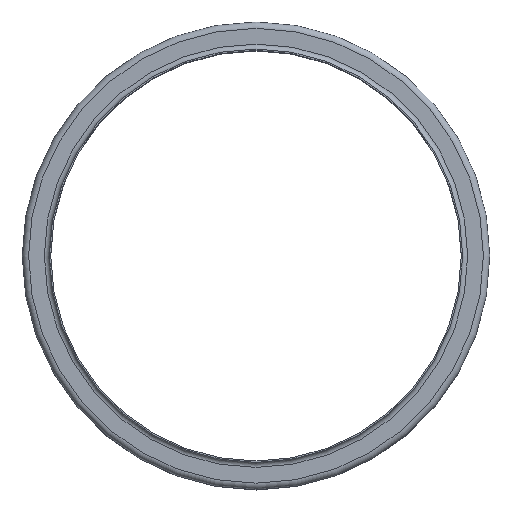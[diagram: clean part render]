
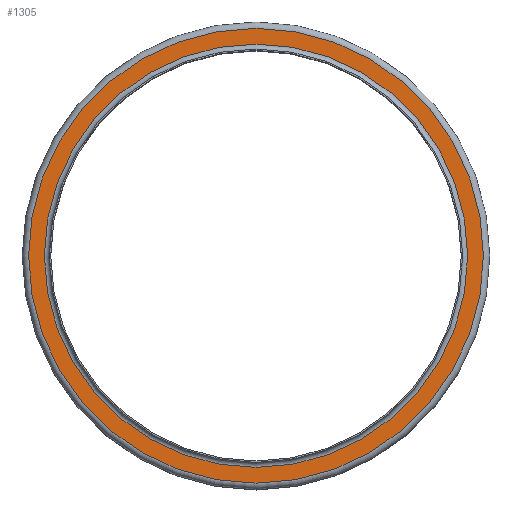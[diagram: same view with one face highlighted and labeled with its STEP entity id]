
A CAD part, top view. The second image highlights one B-rep face of the part: STEP entity #1305.
In plain terms, the highlighted planar face has unit normal (0, 0, 1).
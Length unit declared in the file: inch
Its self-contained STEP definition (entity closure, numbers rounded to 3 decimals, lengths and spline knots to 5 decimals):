
#130=FACE_BOUND('',#384,.T.);
#229=FACE_OUTER_BOUND('',#383,.T.);
#383=EDGE_LOOP('',(#1108));
#384=EDGE_LOOP('',(#1109));
#545=CIRCLE('',#1574,9.28);
#546=CIRCLE('',#1576,9.97);
#658=VERTEX_POINT('',#2470);
#659=VERTEX_POINT('',#2474);
#811=EDGE_CURVE('',#658,#658,#545,.T.);
#812=EDGE_CURVE('',#659,#659,#546,.T.);
#1108=ORIENTED_EDGE('',*,*,#812,.F.);
#1109=ORIENTED_EDGE('',*,*,#811,.T.);
#1206=PLANE('',#1575);
#1305=ADVANCED_FACE('',(#229,#130),#1206,.T.);
#1574=AXIS2_PLACEMENT_3D('',#2472,#2070,#2071);
#1575=AXIS2_PLACEMENT_3D('',#2473,#2072,#2073);
#1576=AXIS2_PLACEMENT_3D('',#2475,#2074,#2075);
#2070=DIRECTION('center_axis',(0.,0.,-1.));
#2071=DIRECTION('ref_axis',(1.,0.,0.));
#2072=DIRECTION('center_axis',(0.,0.,1.));
#2073=DIRECTION('ref_axis',(1.,0.,0.));
#2074=DIRECTION('center_axis',(0.,0.,-1.));
#2075=DIRECTION('ref_axis',(1.,0.,0.));
#2470=CARTESIAN_POINT('',(9.28,0.,-0.22));
#2472=CARTESIAN_POINT('Origin',(0.,0.,-0.22));
#2473=CARTESIAN_POINT('Origin',(0.,9.97,-0.22));
#2474=CARTESIAN_POINT('',(9.97,0.,-0.22));
#2475=CARTESIAN_POINT('Origin',(0.,0.,-0.22));
